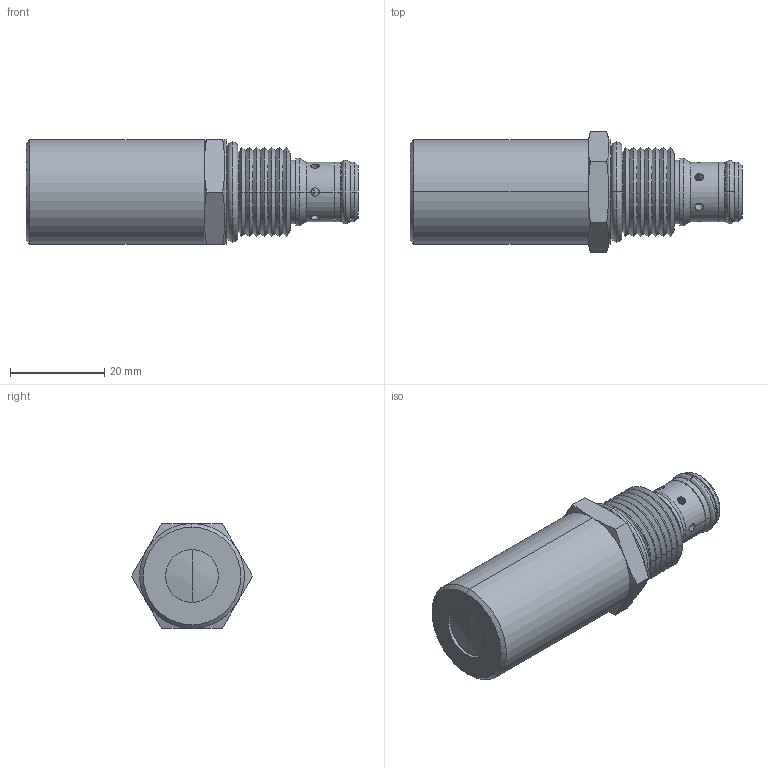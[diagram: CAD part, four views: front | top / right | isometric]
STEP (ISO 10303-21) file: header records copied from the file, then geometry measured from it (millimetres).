
FILE_DESCRIPTION((''),'2;1');
FILE_NAME('U:\Solid model CD\Solid model full\Mechanical\STEP\PBRWA0T-3D Full.stp','2008-07-29T09:54:12',('Dan'),(''),'Autodesk Inventor 9','Autodesk Inventor 9','');
FILE_SCHEMA(('AUTOMOTIVE_DESIGN { 1 0 10303 214 1 1 1 1 }'));
Length unit declared in the file: inch
Products named in the file (5): PBRWA0T-3D Full; PBRWA0T-3D Full1; PBRWA0T-3D Full2; PBRWA0T-3D Full3; PBRWA0T-3D Full4
Assembly tree (4 placements, depth 2):
  PBRWA0T-3D Full
    PBRWA0T-3D Full1
    PBRWA0T-3D Full2
    PBRWA0T-3D Full3
    PBRWA0T-3D Full4
Bounding box: 70.31 x 25.66 x 22.23 mm (x, y, z)
Volume: 21770.6 mm3; surface area: 6723.3 mm2
Topology: 4 solids, 5 shells, 127 faces, 284 edges, 169 vertices
Faces by surface type: cone 50, cylinder 40, plane 19, bspline 12, torus 4, sphere 2
Entity records: 4237 total; most frequent: CARTESIAN_POINT 1352, DIRECTION 596, ORIENTED_EDGE 568, EDGE_CURVE 284, AXIS2_PLACEMENT_3D 252, VERTEX_POINT 169, EDGE_LOOP 147, CIRCLE 127
